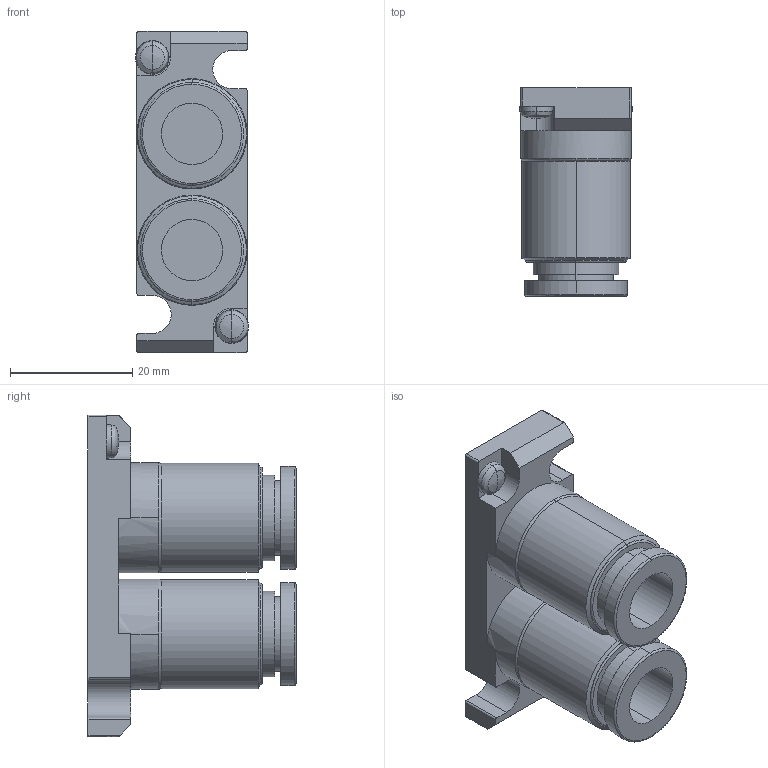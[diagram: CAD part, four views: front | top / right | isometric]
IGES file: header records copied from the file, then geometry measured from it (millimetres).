
Start section: ------------------------------------------------------------------------
Global section: file name: D:\ICADMX\tmp\trans3d_spg\CVICAD02.6676.F15_Port-PJ6_16573.igs; native system: spGate; preprocessor: ver12.6.6; author: Unknown; organization: Unknown; date: 210712.184741; units: millimetre
Bounding box: 18.5 x 34 x 52.6 mm (x, y, z)
Volume: 15266.5 mm3; surface area: 7533.7 mm2
Topology: 1 solids, 1 shells, 104 faces, 254 edges, 158 vertices
Faces by surface type: bspline 104
